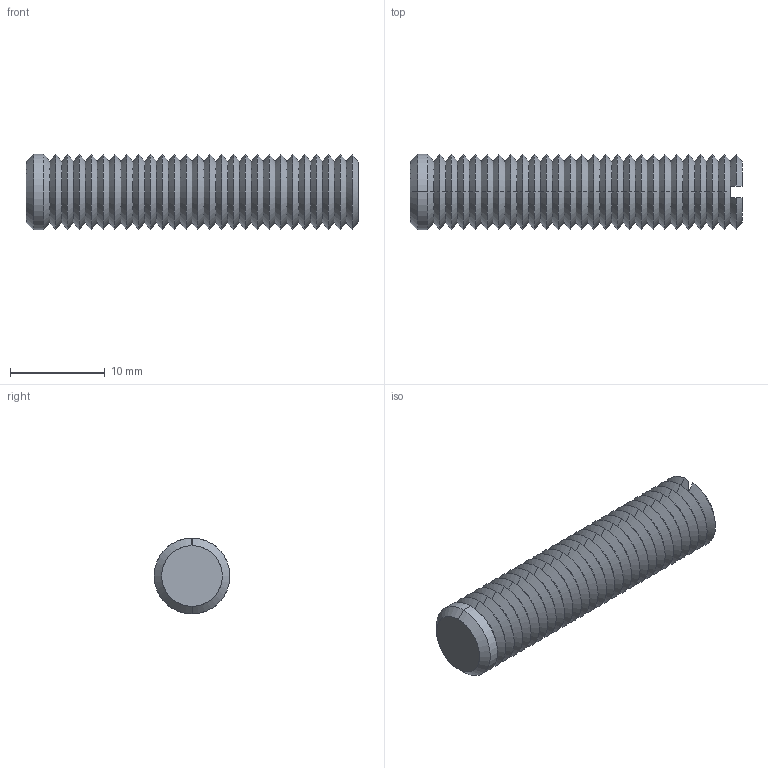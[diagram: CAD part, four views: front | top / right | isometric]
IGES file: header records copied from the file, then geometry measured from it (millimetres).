
Start section: SolidWorks IGES file using analytic representation for surfaces
Global section: file name: C:\Documents and Settings\IANO\Desktop\Temp File\Process pending\EXISTING\34300_v2\34300_v2_20170622_IGES\34300.W0082.igs; native system: SolidWorks 2009; preprocessor: SolidWorks 2009; author: IANO; date: 170622.093749; units: millimetre
Bounding box: 35 x 8 x 8 mm (x, y, z)
Surface area: 1332.1 mm2 (no closed solid volume)
Topology: 0 solids, 0 shells, 116 faces, 528 edges, 528 vertices
Faces by surface type: revolution 110, bspline 6
